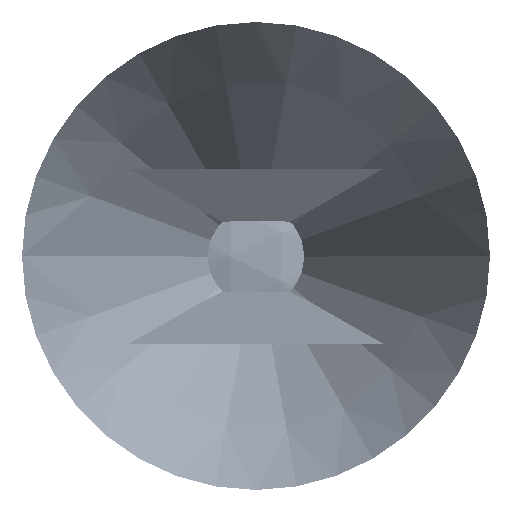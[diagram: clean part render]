
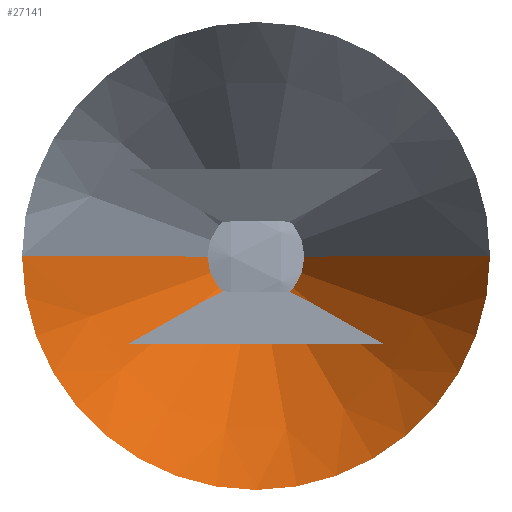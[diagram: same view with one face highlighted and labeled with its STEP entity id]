
A CAD part, top view. The second image highlights one B-rep face of the part: STEP entity #27141.
In plain terms, the highlighted conical face has half-angle 29.565 degrees and reference radius 37.61 mm.
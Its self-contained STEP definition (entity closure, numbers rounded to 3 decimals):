
#27104=CARTESIAN_POINT('',(-218.33,0.,0.));
#27105=DIRECTION('',(-1.,0.,0.));
#27106=DIRECTION('',(0.,0.,-1.));
#27107=AXIS2_PLACEMENT_3D('',#27104,#27105,#27106);
#27109=DIRECTION('',(0.87,0.,-0.493));
#27110=VECTOR('',#27109,149.46);
#27111=CARTESIAN_POINT('',(-218.33,0.,73.745));
#27112=LINE('',#27111,#27110);
#27113=DIRECTION('',(0.87,0.,0.493));
#27114=VECTOR('',#27113,149.46);
#27115=CARTESIAN_POINT('',(-218.33,0.,-73.745));
#27116=LINE('',#27115,#27114);
#27122=CARTESIAN_POINT('',(-218.33,0.,-73.745));
#27123=CARTESIAN_POINT('',(-218.33,0.,73.745));
#27124=VERTEX_POINT('',#27122);
#27125=VERTEX_POINT('',#27123);
#27126=CARTESIAN_POINT('',(-88.33,0.,0.));
#27127=VERTEX_POINT('',#27126);
#27128=CARTESIAN_POINT('',(-154.63,0.,0.));
#27129=DIRECTION('',(-1.,0.,0.));
#27130=DIRECTION('',(0.,0.,-1.));
#27131=AXIS2_PLACEMENT_3D('',#27128,#27129,#27130);
#27132=CONICAL_SURFACE('',#27131,37.61,29.565);
#27134=ORIENTED_EDGE('',*,*,#27133,.F.);
#27136=ORIENTED_EDGE('',*,*,#27135,.T.);
#27138=ORIENTED_EDGE('',*,*,#27137,.T.);
#27139=EDGE_LOOP('',(#27134,#27136,#27138));
#27140=FACE_OUTER_BOUND('',#27139,.F.);
#27108=CIRCLE('',#27107,73.745);
#27133=EDGE_CURVE('',#27124,#27127,#27116,.T.);
#27135=EDGE_CURVE('',#27124,#27125,#27108,.T.);
#27137=EDGE_CURVE('',#27125,#27127,#27112,.T.);
#27141=ADVANCED_FACE('',(#27140),#27132,.T.);
